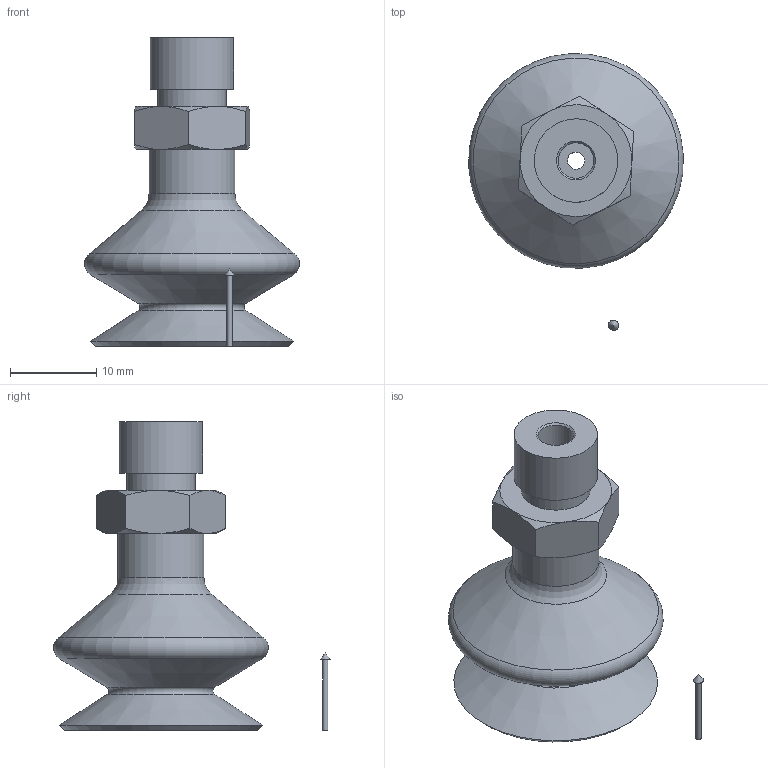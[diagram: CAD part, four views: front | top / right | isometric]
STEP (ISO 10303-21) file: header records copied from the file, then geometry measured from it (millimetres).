
FILE_DESCRIPTION(('STEP AP214'),'1');
FILE_NAME('KIT.08.30.D25.9.stp','2019-05-28T06:18:21',(' '),(' '),'Spatial InterOp 3D',' ',' ');
FILE_SCHEMA(('AUTOMOTIVE_DESIGN { 1 0 10303 214 1 1 1 1 }'));
Length unit declared in the file: millimetre
Products named in the file (5): KIT.08.30.D25.9; CA.08.09.009; CA.08.30.005
Assembly tree (4 placements, depth 3):
  KIT.08.30.D25.9
    CA.08.09.009
    (unnamed)
      CA.08.30.005
      CA.08.30.005
Bounding box: 24.96 x 32.19 x 35.9 mm (x, y, z)
Volume: 6063.8 mm3; surface area: 3642.2 mm2
Topology: 3 solids, 3 shells, 55 faces, 106 edges, 65 vertices
Faces by surface type: cone 22, plane 20, cylinder 10, torus 3
Full cylindrical faces by diameter (mm): 0.6 x1, 2 x1, 4.134 x1, 4.5 x3, 5 x1, 8 x1, 9.7 x1, 10 x1
Entity records: 1836 total; most frequent: CARTESIAN_POINT 294, DIRECTION 222, ORIENTED_EDGE 154, AXIS2_PLACEMENT_3D 108, EDGE_LOOP 90, EDGE_CURVE 77, FACE_OUTER_BOUND 68, VERTEX_POINT 60
